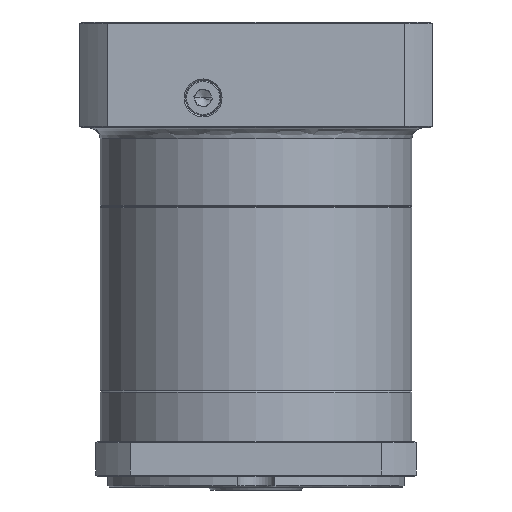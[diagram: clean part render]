
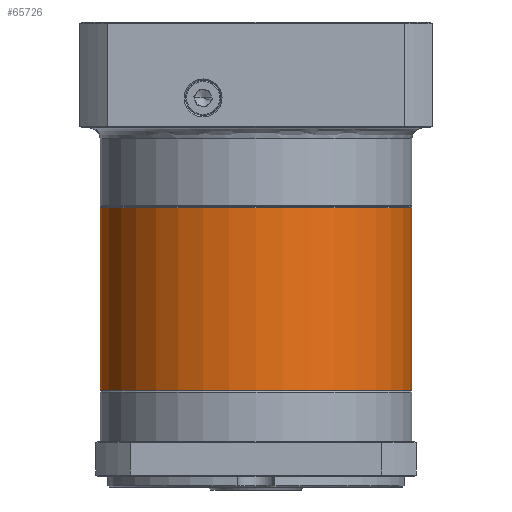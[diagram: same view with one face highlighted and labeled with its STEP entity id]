
A CAD part, front view. The second image highlights one B-rep face of the part: STEP entity #65726.
In plain terms, the highlighted cylindrical face has radius 57.5 mm (diameter 115 mm), a partial arc.
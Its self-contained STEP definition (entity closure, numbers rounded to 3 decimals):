
#442 = DIRECTION ( 'NONE',  ( 0., 0., -1. ) ) ;
#927 = EDGE_CURVE ( 'NONE', #17836, #2031, #40997, .T. ) ;
#2031 = VERTEX_POINT ( 'NONE', #17148 ) ;
#3924 = DIRECTION ( 'NONE',  ( 0., 0., -1. ) ) ;
#8041 = CARTESIAN_POINT ( 'NONE',  ( 124.079, 48.833, -55.666 ) ) ;
#10218 = EDGE_LOOP ( 'NONE', ( #72032, #71375, #10313, #37507, #10855 ) ) ;
#10313 = ORIENTED_EDGE ( 'NONE', *, *, #97722, .T. ) ;
#10855 = ORIENTED_EDGE ( 'NONE', *, *, #36209, .T. ) ;
#11336 = VERTEX_POINT ( 'NONE', #100740 ) ;
#14366 = CIRCLE ( 'NONE', #103193, 57.5 ) ;
#16052 = CYLINDRICAL_SURFACE ( 'NONE', #130550, 57.5 ) ;
#17148 = CARTESIAN_POINT ( 'NONE',  ( 124.079, 48.833, -123.377 ) ) ;
#17836 = VERTEX_POINT ( 'NONE', #100257 ) ;
#18501 = CARTESIAN_POINT ( 'NONE',  ( 66.579, 48.833, -123.377 ) ) ;
#25104 = VECTOR ( 'NONE', #3924, 1000. ) ;
#28836 = DIRECTION ( 'NONE',  ( -1., 0., 0. ) ) ;
#36209 = EDGE_CURVE ( 'NONE', #11336, #2031, #60467, .T. ) ;
#37507 = ORIENTED_EDGE ( 'NONE', *, *, #99333, .T. ) ;
#38497 = DIRECTION ( 'NONE',  ( 0., 0., -1. ) ) ;
#38971 = FACE_OUTER_BOUND ( 'NONE', #10218, .T. ) ;
#40997 = LINE ( 'NONE', #8041, #97678 ) ;
#48945 = VERTEX_POINT ( 'NONE', #127082 ) ;
#51834 = LINE ( 'NONE', #85663, #25104 ) ;
#58666 = DIRECTION ( 'NONE',  ( -1., 0., 0. ) ) ;
#59954 = CARTESIAN_POINT ( 'NONE',  ( 66.579, 48.833, -56.166 ) ) ;
#60467 = CIRCLE ( 'NONE', #87731, 57.5 ) ;
#60731 = CARTESIAN_POINT ( 'NONE',  ( 66.579, 48.833, -56.166 ) ) ;
#65726 = ADVANCED_FACE ( 'NONE', ( #38971 ), #16052, .T. ) ;
#67624 = VERTEX_POINT ( 'NONE', #84954 ) ;
#68785 = CARTESIAN_POINT ( 'NONE',  ( 66.579, 48.833, -55.666 ) ) ;
#70062 = DIRECTION ( 'NONE',  ( 0., 0., -1. ) ) ;
#70824 = DIRECTION ( 'NONE',  ( -1., 0., 0. ) ) ;
#71375 = ORIENTED_EDGE ( 'NONE', *, *, #110217, .T. ) ;
#72032 = ORIENTED_EDGE ( 'NONE', *, *, #927, .F. ) ;
#84954 = CARTESIAN_POINT ( 'NONE',  ( 9.079, 48.833, -56.166 ) ) ;
#85663 = CARTESIAN_POINT ( 'NONE',  ( 9.079, 48.833, -55.666 ) ) ;
#87731 = AXIS2_PLACEMENT_3D ( 'NONE', #18501, #119271, #110003 ) ;
#97678 = VECTOR ( 'NONE', #107579, 1000. ) ;
#97722 = EDGE_CURVE ( 'NONE', #48945, #67624, #112229, .T. ) ;
#99333 = EDGE_CURVE ( 'NONE', #67624, #11336, #51834, .T. ) ;
#100257 = CARTESIAN_POINT ( 'NONE',  ( 124.079, 48.833, -56.166 ) ) ;
#100740 = CARTESIAN_POINT ( 'NONE',  ( 9.079, 48.833, -123.377 ) ) ;
#103193 = AXIS2_PLACEMENT_3D ( 'NONE', #59954, #70062, #58666 ) ;
#107579 = DIRECTION ( 'NONE',  ( 0., 0., -1. ) ) ;
#110003 = DIRECTION ( 'NONE',  ( -1., 0., 0. ) ) ;
#110217 = EDGE_CURVE ( 'NONE', #17836, #48945, #14366, .T. ) ;
#112229 = CIRCLE ( 'NONE', #123008, 57.5 ) ;
#119271 = DIRECTION ( 'NONE',  ( 0., 0., 1. ) ) ;
#123008 = AXIS2_PLACEMENT_3D ( 'NONE', #60731, #442, #70824 ) ;
#127082 = CARTESIAN_POINT ( 'NONE',  ( 66.579, -8.667, -56.166 ) ) ;
#130550 = AXIS2_PLACEMENT_3D ( 'NONE', #68785, #38497, #28836 ) ;
